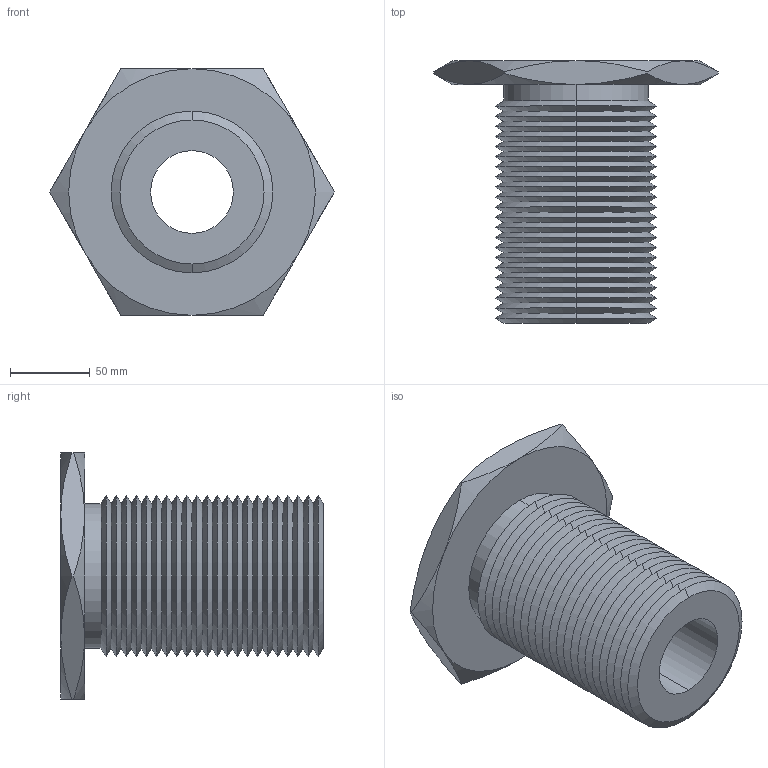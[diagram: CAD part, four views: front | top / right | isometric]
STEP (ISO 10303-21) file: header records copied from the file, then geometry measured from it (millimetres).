
FILE_DESCRIPTION (( 'STEP AP203' ), '1' );
FILE_NAME ('63302.W5400_M52x5.step', '2013-12-08T12:00:56', ( 'User' ), ( '' ), 'SwSTEP 2.0', 'SolidWorks 2009', '' );
FILE_SCHEMA (( 'CONFIG_CONTROL_DESIGN' ));
Length unit declared in the file: millimetre
Products named in the file (1): 63302.W5400_M52x5
Bounding box: 178.98 x 165 x 155 mm (x, y, z)
Volume: 1032238.5 mm3; surface area: 157262.9 mm2
Topology: 1 solids, 1 shells, 115 faces, 234 edges, 122 vertices
Faces by surface type: cone 102, plane 9, cylinder 4
Entity records: 3179 total; most frequent: CARTESIAN_POINT 696, DIRECTION 552, ORIENTED_EDGE 468, EDGE_CURVE 234, AXIS2_PLACEMENT_3D 226, VERTEX_POINT 122, EDGE_LOOP 118, ADVANCED_FACE 115
